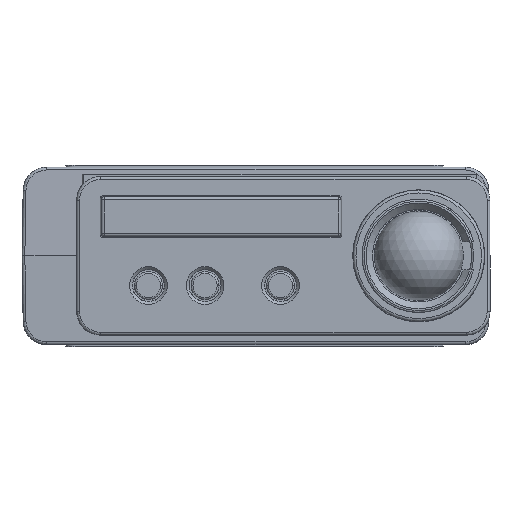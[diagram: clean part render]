
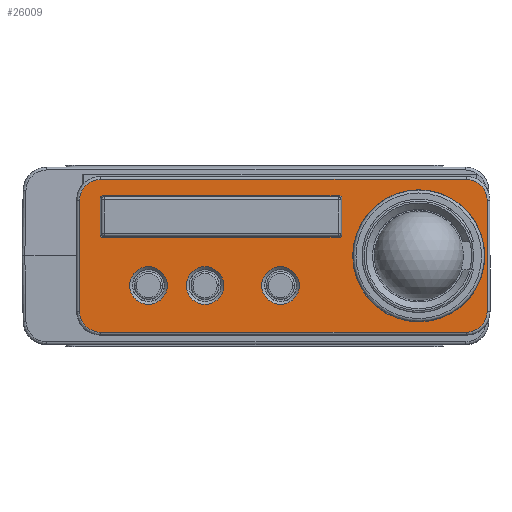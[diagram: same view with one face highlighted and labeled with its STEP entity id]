
A CAD part, top view. The second image highlights one B-rep face of the part: STEP entity #26009.
In plain terms, the highlighted planar face has unit normal (0, 0, 1).
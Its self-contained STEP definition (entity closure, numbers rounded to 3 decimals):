
#209=ELLIPSE('',#27761,0.3,0.3);
#210=ELLIPSE('',#27764,0.3,0.3);
#211=ELLIPSE('',#27770,0.3,0.3);
#212=ELLIPSE('',#27773,0.3,0.3);
#386=FACE_BOUND('',#3575,.T.);
#387=FACE_BOUND('',#3576,.T.);
#388=FACE_BOUND('',#3577,.T.);
#389=FACE_BOUND('',#3578,.T.);
#390=FACE_BOUND('',#3579,.T.);
#996=PLANE('',#27903);
#2176=FACE_OUTER_BOUND('',#3574,.T.);
#3574=EDGE_LOOP('',(#19765,#19766,#19767,#19768,#19769,#19770,#19771,#19772));
#3575=EDGE_LOOP('',(#19773));
#3576=EDGE_LOOP('',(#19774));
#3577=EDGE_LOOP('',(#19775,#19776,#19777,#19778,#19779,#19780,#19781,#19782));
#3578=EDGE_LOOP('',(#19783));
#3579=EDGE_LOOP('',(#19784));
#4687=CIRCLE('',#27687,7.);
#4699=CIRCLE('',#27743,2.2);
#4702=CIRCLE('',#27747,2.2);
#4705=CIRCLE('',#27751,2.2);
#4708=CIRCLE('',#27755,2.2);
#4752=CIRCLE('',#27897,2.);
#4755=CIRCLE('',#27902,2.);
#4756=CIRCLE('',#27904,2.);
#6098=LINE('',#40768,#8820);
#6102=LINE('',#40777,#8824);
#6163=LINE('',#41011,#8885);
#6164=LINE('',#41043,#8886);
#6165=LINE('',#41075,#8887);
#6166=LINE('',#41105,#8888);
#6174=LINE('',#41123,#8896);
#6178=LINE('',#41132,#8900);
#8820=VECTOR('',#31825,10.);
#8824=VECTOR('',#31831,10.);
#8885=VECTOR('',#32018,10.);
#8886=VECTOR('',#32027,10.);
#8887=VECTOR('',#32036,10.);
#8888=VECTOR('',#32043,10.);
#8896=VECTOR('',#32055,10.);
#8900=VECTOR('',#32061,10.);
#11523=VERTEX_POINT('',#40764);
#11525=VERTEX_POINT('',#40767);
#11527=VERTEX_POINT('',#40773);
#11529=VERTEX_POINT('',#40776);
#11535=VERTEX_POINT('',#40793);
#11592=VERTEX_POINT('',#41003);
#11593=VERTEX_POINT('',#41005);
#11594=VERTEX_POINT('',#41009);
#11595=VERTEX_POINT('',#41037);
#11596=VERTEX_POINT('',#41041);
#11597=VERTEX_POINT('',#41069);
#11598=VERTEX_POINT('',#41073);
#11599=VERTEX_POINT('',#41101);
#11605=VERTEX_POINT('',#41117);
#11607=VERTEX_POINT('',#41121);
#11609=VERTEX_POINT('',#41126);
#11611=VERTEX_POINT('',#41130);
#11681=VERTEX_POINT('',#41600);
#11684=VERTEX_POINT('',#41608);
#11685=VERTEX_POINT('',#41611);
#14406=EDGE_CURVE('',#11525,#11523,#6098,.T.);
#14410=EDGE_CURVE('',#11529,#11527,#6102,.T.);
#14418=EDGE_CURVE('',#11535,#11535,#4687,.T.);
#14504=EDGE_CURVE('',#11593,#11592,#4699,.T.);
#14506=EDGE_CURVE('',#11594,#11593,#6163,.T.);
#14508=EDGE_CURVE('',#11595,#11594,#4702,.T.);
#14510=EDGE_CURVE('',#11596,#11595,#6164,.T.);
#14512=EDGE_CURVE('',#11597,#11596,#4705,.T.);
#14514=EDGE_CURVE('',#11598,#11597,#6165,.T.);
#14516=EDGE_CURVE('',#11599,#11598,#4708,.T.);
#14517=EDGE_CURVE('',#11592,#11599,#6166,.T.);
#14525=EDGE_CURVE('',#11605,#11607,#6174,.T.);
#14529=EDGE_CURVE('',#11611,#11609,#6178,.T.);
#14530=EDGE_CURVE('',#11529,#11607,#209,.F.);
#14532=EDGE_CURVE('',#11605,#11611,#210,.F.);
#14536=EDGE_CURVE('',#11525,#11527,#211,.F.);
#14538=EDGE_CURVE('',#11609,#11523,#212,.F.);
#14682=EDGE_CURVE('',#11681,#11681,#4752,.T.);
#14685=EDGE_CURVE('',#11684,#11684,#4755,.T.);
#14686=EDGE_CURVE('',#11685,#11685,#4756,.T.);
#19765=ORIENTED_EDGE('',*,*,#14517,.F.);
#19766=ORIENTED_EDGE('',*,*,#14504,.F.);
#19767=ORIENTED_EDGE('',*,*,#14506,.F.);
#19768=ORIENTED_EDGE('',*,*,#14508,.F.);
#19769=ORIENTED_EDGE('',*,*,#14510,.F.);
#19770=ORIENTED_EDGE('',*,*,#14512,.F.);
#19771=ORIENTED_EDGE('',*,*,#14514,.F.);
#19772=ORIENTED_EDGE('',*,*,#14516,.F.);
#19773=ORIENTED_EDGE('',*,*,#14685,.F.);
#19774=ORIENTED_EDGE('',*,*,#14418,.T.);
#19775=ORIENTED_EDGE('',*,*,#14406,.T.);
#19776=ORIENTED_EDGE('',*,*,#14538,.F.);
#19777=ORIENTED_EDGE('',*,*,#14529,.F.);
#19778=ORIENTED_EDGE('',*,*,#14532,.F.);
#19779=ORIENTED_EDGE('',*,*,#14525,.T.);
#19780=ORIENTED_EDGE('',*,*,#14530,.F.);
#19781=ORIENTED_EDGE('',*,*,#14410,.T.);
#19782=ORIENTED_EDGE('',*,*,#14536,.F.);
#19783=ORIENTED_EDGE('',*,*,#14682,.F.);
#19784=ORIENTED_EDGE('',*,*,#14686,.F.);
#26009=ADVANCED_FACE('',(#2176,#386,#387,#388,#389,#390),#996,.F.);
#27687=AXIS2_PLACEMENT_3D('',#40794,#31846,#31847);
#27743=AXIS2_PLACEMENT_3D('',#41007,#32012,#32013);
#27747=AXIS2_PLACEMENT_3D('',#41039,#32021,#32022);
#27751=AXIS2_PLACEMENT_3D('',#41071,#32030,#32031);
#27755=AXIS2_PLACEMENT_3D('',#41103,#32039,#32040);
#27761=AXIS2_PLACEMENT_3D('',#41134,#32064,#32065);
#27764=AXIS2_PLACEMENT_3D('',#41137,#32070,#32071);
#27770=AXIS2_PLACEMENT_3D('',#41143,#32082,#32083);
#27773=AXIS2_PLACEMENT_3D('',#41146,#32088,#32089);
#27897=AXIS2_PLACEMENT_3D('',#41601,#32424,#32425);
#27902=AXIS2_PLACEMENT_3D('',#41609,#32434,#32435);
#27903=AXIS2_PLACEMENT_3D('',#41610,#32436,#32437);
#27904=AXIS2_PLACEMENT_3D('',#41612,#32438,#32439);
#31825=DIRECTION('',(1.,0.,0.));
#31831=DIRECTION('',(0.,1.,0.));
#31846=DIRECTION('center_axis',(0.,0.,-1.));
#31847=DIRECTION('ref_axis',(-1.,0.,0.));
#32012=DIRECTION('center_axis',(0.,0.,-1.));
#32013=DIRECTION('ref_axis',(1.,0.,0.));
#32018=DIRECTION('',(1.,0.,0.));
#32021=DIRECTION('center_axis',(0.,0.,-1.));
#32022=DIRECTION('ref_axis',(0.,1.,0.));
#32027=DIRECTION('',(0.,1.,0.));
#32030=DIRECTION('center_axis',(0.,0.,-1.));
#32031=DIRECTION('ref_axis',(-1.,0.,0.));
#32036=DIRECTION('',(-1.,0.,0.));
#32039=DIRECTION('center_axis',(0.,0.,-1.));
#32040=DIRECTION('ref_axis',(0.,-1.,0.));
#32043=DIRECTION('',(0.,-1.,0.));
#32055=DIRECTION('',(-1.,0.,0.));
#32061=DIRECTION('',(0.,1.,0.));
#32064=DIRECTION('center_axis',(0.,0.,-1.));
#32065=DIRECTION('ref_axis',(-0.707,-0.707,0.));
#32070=DIRECTION('center_axis',(0.,0.,-1.));
#32071=DIRECTION('ref_axis',(0.707,-0.707,0.));
#32082=DIRECTION('center_axis',(0.,0.,-1.));
#32083=DIRECTION('ref_axis',(-0.707,0.707,0.));
#32088=DIRECTION('center_axis',(0.,0.,-1.));
#32089=DIRECTION('ref_axis',(0.707,0.707,0.));
#32424=DIRECTION('center_axis',(0.,0.,1.));
#32425=DIRECTION('ref_axis',(-1.,0.,0.));
#32434=DIRECTION('center_axis',(0.,0.,1.));
#32435=DIRECTION('ref_axis',(-1.,0.,0.));
#32436=DIRECTION('center_axis',(0.,0.,-1.));
#32437=DIRECTION('ref_axis',(-1.,0.,0.));
#32438=DIRECTION('center_axis',(0.,0.,1.));
#32439=DIRECTION('ref_axis',(-1.,0.,0.));
#40764=CARTESIAN_POINT('',(5.9,6.35,2.4));
#40767=CARTESIAN_POINT('',(-19.1,6.35,2.4));
#40768=CARTESIAN_POINT('',(-0.825,6.35,2.4));
#40773=CARTESIAN_POINT('',(-19.4,6.05,2.4));
#40776=CARTESIAN_POINT('',(-19.4,2.25,2.4));
#40777=CARTESIAN_POINT('',(-19.4,1.95,2.4));
#40793=CARTESIAN_POINT('',(21.35,0.,2.4));
#40794=CARTESIAN_POINT('Origin',(14.35,0.,2.4));
#41003=CARTESIAN_POINT('',(21.593,5.895,2.4));
#41005=CARTESIAN_POINT('',(19.394,8.095,2.4));
#41007=CARTESIAN_POINT('Origin',(19.394,5.895,2.4));
#41009=CARTESIAN_POINT('',(-19.394,8.095,2.4));
#41011=CARTESIAN_POINT('',(7.025,8.095,2.4));
#41037=CARTESIAN_POINT('',(-21.593,5.895,2.4));
#41039=CARTESIAN_POINT('Origin',(-19.394,5.895,2.4));
#41041=CARTESIAN_POINT('',(-21.594,-5.894,2.4));
#41043=CARTESIAN_POINT('',(-21.594,0.001,2.4));
#41069=CARTESIAN_POINT('',(-19.394,-8.095,2.4));
#41071=CARTESIAN_POINT('Origin',(-19.394,-5.895,2.4));
#41073=CARTESIAN_POINT('',(19.394,-8.095,2.4));
#41075=CARTESIAN_POINT('',(7.025,-8.095,2.4));
#41101=CARTESIAN_POINT('',(21.594,-5.894,2.4));
#41103=CARTESIAN_POINT('Origin',(19.394,-5.895,2.4));
#41105=CARTESIAN_POINT('',(21.594,0.,2.4));
#41117=CARTESIAN_POINT('',(5.9,1.95,2.4));
#41121=CARTESIAN_POINT('',(-19.1,1.95,2.4));
#41123=CARTESIAN_POINT('',(-14.875,1.95,2.4));
#41126=CARTESIAN_POINT('',(6.2,6.05,2.4));
#41130=CARTESIAN_POINT('',(6.2,2.25,2.4));
#41132=CARTESIAN_POINT('',(6.2,8.4,2.4));
#41134=CARTESIAN_POINT('Origin',(-19.1,2.25,2.4));
#41137=CARTESIAN_POINT('Origin',(5.9,2.25,2.4));
#41143=CARTESIAN_POINT('Origin',(-19.1,6.05,2.4));
#41146=CARTESIAN_POINT('Origin',(5.9,6.05,2.4));
#41600=CARTESIAN_POINT('',(-12.3,-3.15,2.4));
#41601=CARTESIAN_POINT('Origin',(-14.3,-3.15,2.4));
#41608=CARTESIAN_POINT('',(-6.3,-3.15,2.4));
#41609=CARTESIAN_POINT('Origin',(-8.3,-3.15,2.4));
#41610=CARTESIAN_POINT('Origin',(14.05,0.,2.4));
#41611=CARTESIAN_POINT('',(1.7,-3.15,2.4));
#41612=CARTESIAN_POINT('Origin',(-0.3,-3.15,2.4));
